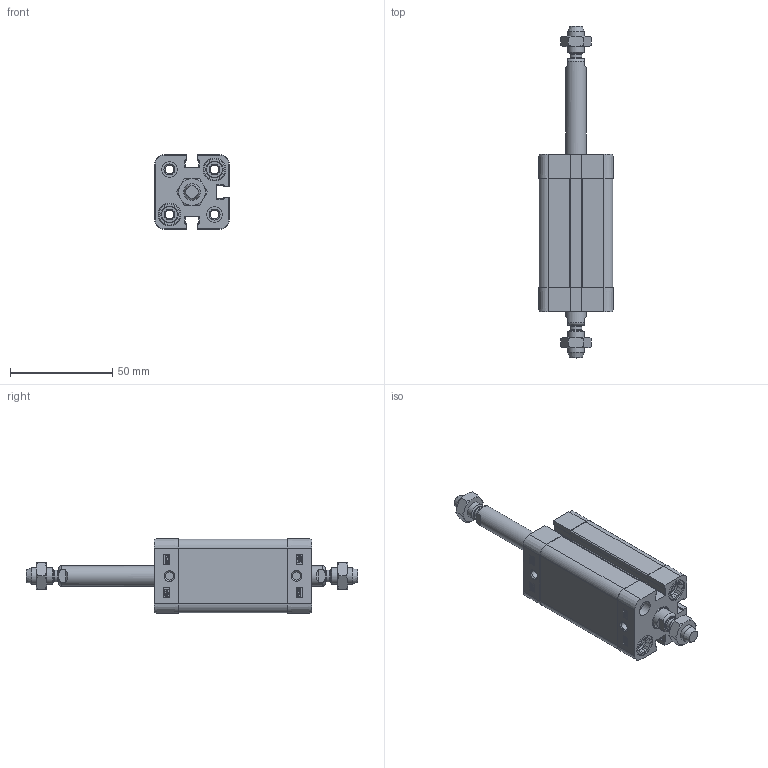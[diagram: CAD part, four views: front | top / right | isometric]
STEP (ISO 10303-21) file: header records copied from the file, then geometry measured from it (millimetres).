
FILE_DESCRIPTION(/* description */ ('Unknown'),/* implementation_level */ '2;1');
FILE_NAME(/* name */ 'ZBF 20_40',/* time_stamp */ '2025-01-28T08:37:14+01:00',/* author */ ('Unknown'),/* organization */ ('HAFNER Pneumatika Kft'),/* preprocessor_version */ 'ST-DEVELOPER v16.7',/* originating_system */ 'Solid Edge',/* authorisation */ 'Unknown');
FILE_SCHEMA (('AUTOMOTIVE_DESIGN {1 0 10303 214 3 1 1}'));
Length unit declared in the file: millimetre
Products named in the file (5): ZBF 20_40; Profilrohr; Kolbenstange; Kit; Mutter
Assembly tree (7 placements, depth 2):
  ZBF 20_40
    Profilrohr
    Kolbenstange  x2
    Kit  x2
    Mutter  x2
Bounding box: 36.3 x 162 x 36.3 mm (x, y, z)
Volume: 75301.9 mm3; surface area: 40762.2 mm2
Topology: 7 solids, 11 shells, 659 faces, 1721 edges, 1126 vertices
Faces by surface type: plane 310, cylinder 159, bspline 86, cone 84, torus 20
Full cylindrical faces by diameter (mm): 4.134 x10, 5.8 x2, 6.647 x2, 7.5 x4, 7.55 x4, 8 x10, 10 x2, 10.48 x2, 10.9 x4, 11.1 x4, 11.4 x2, 12 x2, 13.84 x2, 14 x2, 20 x3
Entity records: 12943 total; most frequent: CARTESIAN_POINT 2491, ORIENTED_EDGE 1726, DIRECTION 1643, EDGE_CURVE 863, VERTEX_POINT 599, AXIS2_PLACEMENT_3D 579, LINE 485, VECTOR 485
